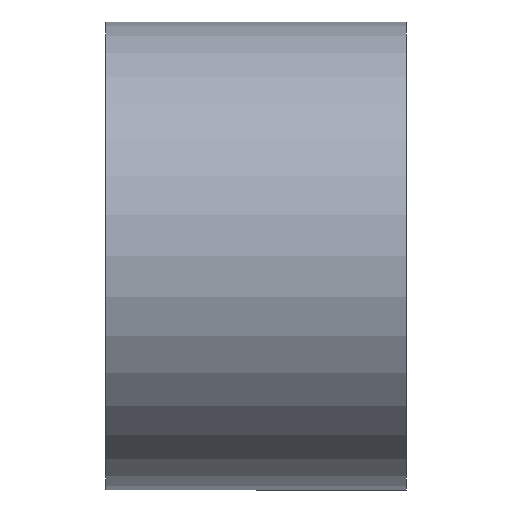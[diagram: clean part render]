
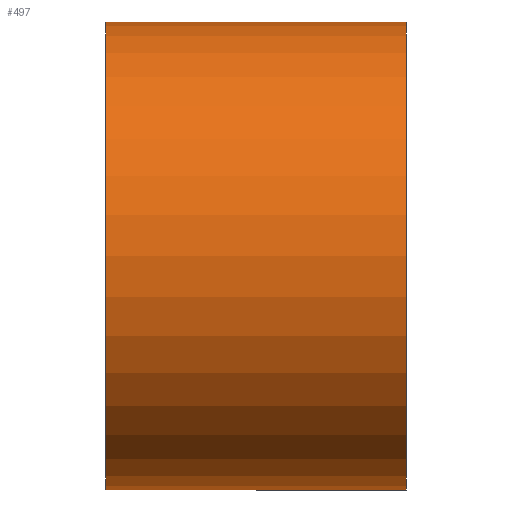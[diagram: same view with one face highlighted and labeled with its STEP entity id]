
A CAD part, front view. The second image highlights one B-rep face of the part: STEP entity #497.
In plain terms, the highlighted cylindrical face has radius 35 mm (diameter 70 mm), a partial arc.
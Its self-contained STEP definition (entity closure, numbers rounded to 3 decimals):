
#25 = CARTESIAN_POINT ( 'NONE',  ( 0., 0., 0. ) ) ;
#44 = EDGE_CURVE ( 'NONE', #163, #179, #773, .T. ) ;
#84 = CARTESIAN_POINT ( 'NONE',  ( -22.5, 0., -35. ) ) ;
#89 = EDGE_LOOP ( 'NONE', ( #409, #489, #738, #111 ) ) ;
#109 = CIRCLE ( 'NONE', #475, 35. ) ;
#111 = ORIENTED_EDGE ( 'NONE', *, *, #750, .F. ) ;
#118 = LINE ( 'NONE', #806, #822 ) ;
#123 = AXIS2_PLACEMENT_3D ( 'NONE', #25, #296, #240 ) ;
#163 = VERTEX_POINT ( 'NONE', #687 ) ;
#179 = VERTEX_POINT ( 'NONE', #635 ) ;
#194 = DIRECTION ( 'NONE',  ( -1., 0., 0. ) ) ;
#234 = CARTESIAN_POINT ( 'NONE',  ( 0., 0., 35. ) ) ;
#240 = DIRECTION ( 'NONE',  ( 0., 0., 1. ) ) ;
#296 = DIRECTION ( 'NONE',  ( -1., 0., 0. ) ) ;
#328 = VERTEX_POINT ( 'NONE', #84 ) ;
#338 = VECTOR ( 'NONE', #707, 1000. ) ;
#409 = ORIENTED_EDGE ( 'NONE', *, *, #531, .F. ) ;
#415 = DIRECTION ( 'NONE',  ( 0., 0., 1. ) ) ;
#455 = DIRECTION ( 'NONE',  ( 0., 0., 1. ) ) ;
#456 = VERTEX_POINT ( 'NONE', #847 ) ;
#475 = AXIS2_PLACEMENT_3D ( 'NONE', #483, #752, #415 ) ;
#483 = CARTESIAN_POINT ( 'NONE',  ( -22.5, 0., 0. ) ) ;
#489 = ORIENTED_EDGE ( 'NONE', *, *, #644, .T. ) ;
#497 = ADVANCED_FACE ( 'NONE', ( #517 ), #508, .T. ) ;
#508 = CYLINDRICAL_SURFACE ( 'NONE', #123, 35. ) ;
#517 = FACE_OUTER_BOUND ( 'NONE', #89, .T. ) ;
#531 = EDGE_CURVE ( 'NONE', #456, #328, #118, .T. ) ;
#605 = DIRECTION ( 'NONE',  ( -1., 0., 0. ) ) ;
#610 = CIRCLE ( 'NONE', #716, 35. ) ;
#635 = CARTESIAN_POINT ( 'NONE',  ( -22.5, 0., 35. ) ) ;
#644 = EDGE_CURVE ( 'NONE', #456, #163, #610, .T. ) ;
#687 = CARTESIAN_POINT ( 'NONE',  ( 22.5, 0., 35. ) ) ;
#707 = DIRECTION ( 'NONE',  ( -1., 0., 0. ) ) ;
#716 = AXIS2_PLACEMENT_3D ( 'NONE', #747, #605, #455 ) ;
#738 = ORIENTED_EDGE ( 'NONE', *, *, #44, .T. ) ;
#747 = CARTESIAN_POINT ( 'NONE',  ( 22.5, 0., 0. ) ) ;
#750 = EDGE_CURVE ( 'NONE', #328, #179, #109, .T. ) ;
#752 = DIRECTION ( 'NONE',  ( -1., 0., 0. ) ) ;
#773 = LINE ( 'NONE', #234, #338 ) ;
#806 = CARTESIAN_POINT ( 'NONE',  ( 0., 0., -35. ) ) ;
#822 = VECTOR ( 'NONE', #194, 1000. ) ;
#847 = CARTESIAN_POINT ( 'NONE',  ( 22.5, 0., -35. ) ) ;
